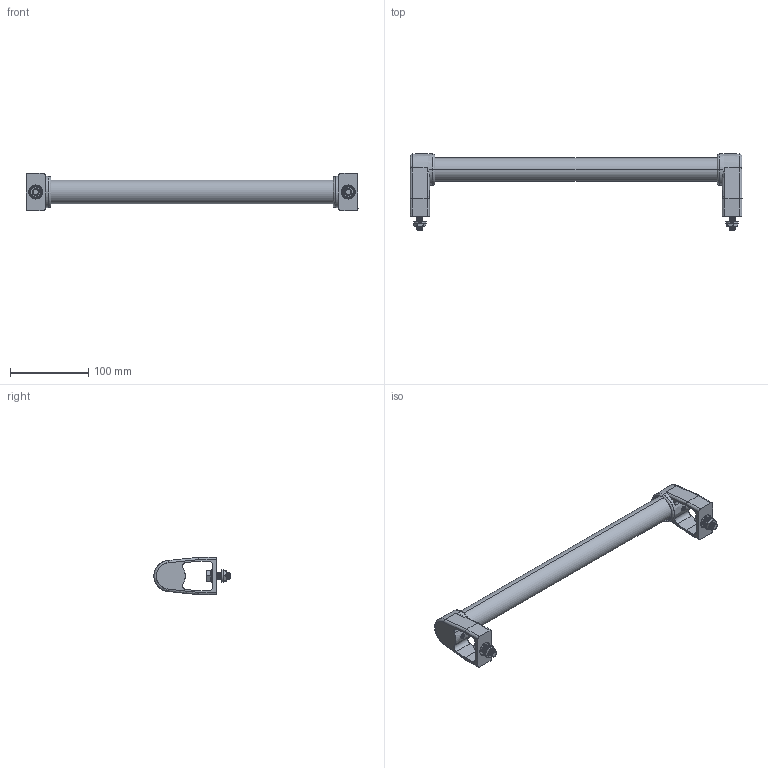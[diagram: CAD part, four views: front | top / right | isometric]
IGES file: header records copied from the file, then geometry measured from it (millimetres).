
Start section: SolidWorks IGES file using analytic representation for surfaces
Global section: file name: C:\Users\IanO\Desktop\Temp File\CADMASTER UPLOADING\78800_v2\78800_v2_20171221_IGES\78800.W0410.igs; native system: SolidWorks 2017; preprocessor: SolidWorks 2017; author: IanO; date: 180428.100907; units: millimetre
Bounding box: 425 x 97.4 x 48 mm (x, y, z)
Surface area: 114181.1 mm2 (no closed solid volume)
Topology: 0 solids, 0 shells, 486 faces, 5524 edges, 5520 vertices
Faces by surface type: revolution 372, bspline 114
